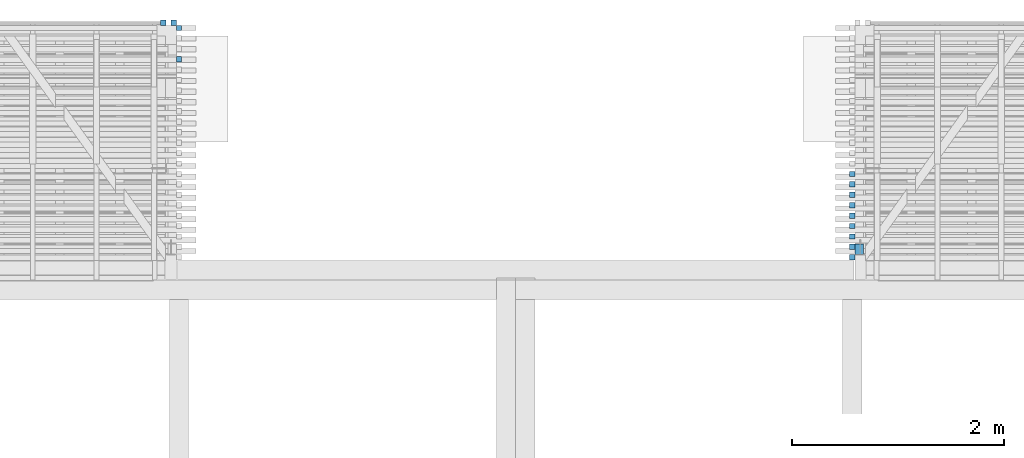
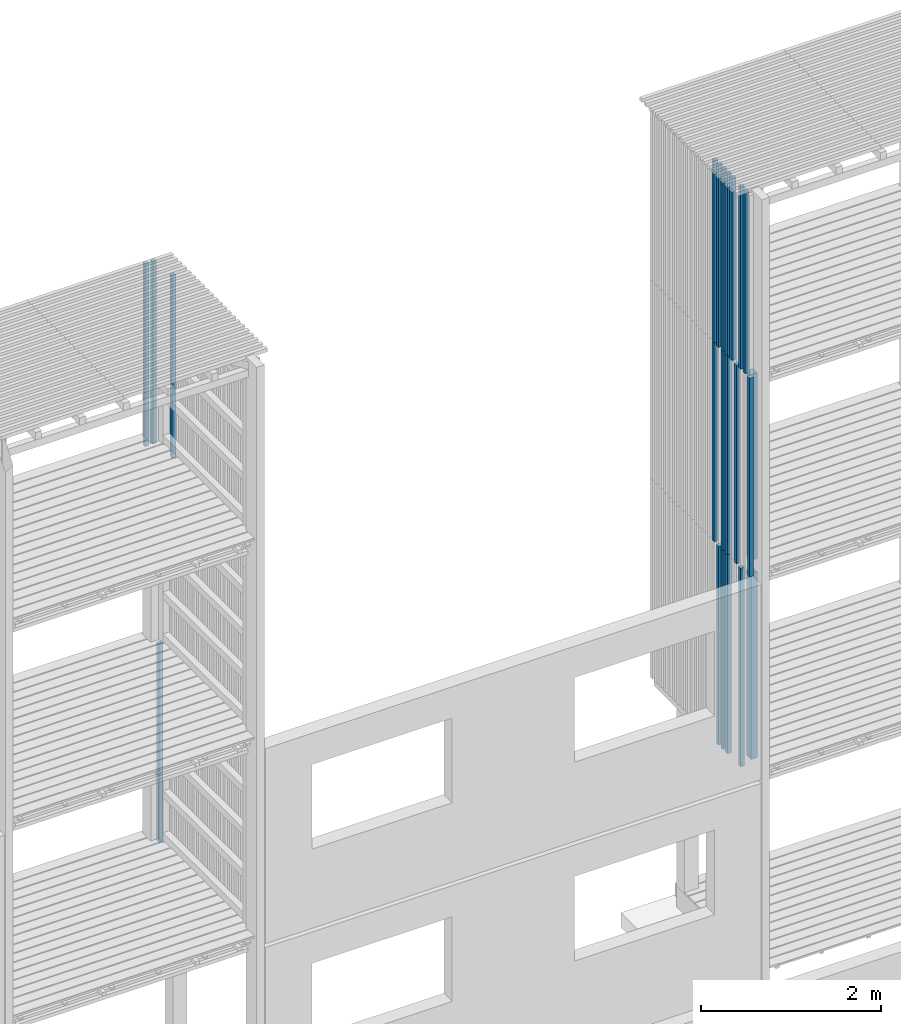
# One storey, part 58 of 182: 22 beams.
"""IFC2X3 building model written with IfcOpenShell, lengths in metres."""

from ifc_helpers import new_model, si_unit, frame, origin, place, context, project, spatial, faceted_brep, element, save


model = new_model("IFC2X3")

# Units and contexts
model_context = context("Model", 3, precision=1e-06, world=origin())
ifc_project = project(units=[si_unit("LENGTHUNIT", "METRE"), si_unit("PLANEANGLEUNIT", "RADIAN")], contexts=[model_context])

# Site, building, storey
site = spatial("IfcSite", under=ifc_project, CompositionType="ELEMENT")
building = spatial("IfcBuilding", under=site, CompositionType="ELEMENT")
storey = spatial("IfcBuildingStorey", under=building, Name="vs", CompositionType="ELEMENT", Elevation=-0.85)

# Beams
placement = place(None, origin())
beam_1_placement = place(placement, frame((23.019999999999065, 11.470532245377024, 7.974999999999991), z_axis=(1.0, 0.0, 0.0), x_axis=(0.0, 0.0, 1.0)))
element("IfcBeam", 1, at=beam_1_placement, inside=storey, Name="Bardage", context=model_context, shape_type="Brep", body=[
    faceted_brep([(0.0, -0.025000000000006, 0.025000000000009), (0.0, 0.024999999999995, 0.025000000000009), (0.0, 0.024999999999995, -0.025000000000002), (0.0, -0.025000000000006, -0.025000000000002), (2.479999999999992, 0.024999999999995, -0.025000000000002), (2.479999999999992, 0.024999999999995, 0.025000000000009), (2.479999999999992, -0.025000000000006, 0.025000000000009), (2.479999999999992, -0.025000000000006, -0.025000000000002), (0.0, 0.024999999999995, 0.025000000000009), (0.0, -0.025000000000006, 0.025000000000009), (2.479999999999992, -0.025000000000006, 0.025000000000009), (2.479999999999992, 0.024999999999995, 0.025000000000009), (0.0, 0.024999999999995, -0.025000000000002), (0.0, 0.024999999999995, 0.025000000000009), (2.479999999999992, 0.024999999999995, 0.025000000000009), (2.479999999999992, 0.024999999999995, -0.025000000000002), (0.0, -0.025000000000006, -0.025000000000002), (0.0, 0.024999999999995, -0.025000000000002), (2.479999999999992, 0.024999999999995, -0.025000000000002), (2.479999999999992, -0.025000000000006, -0.025000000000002), (2.479999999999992, -0.025000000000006, 0.025000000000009), (0.0, -0.025000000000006, 0.025000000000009), (0.0, -0.025000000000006, -0.025000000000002), (2.479999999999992, -0.025000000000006, -0.025000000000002)], [[[0, 1, 2, 3]], [[4, 5, 6, 7]], [[8, 9, 10, 11]], [[12, 13, 14, 15]], [[16, 17, 18, 19]], [[20, 21, 22, 23]]]),
])
beam_2_placement = place(placement, frame((23.019999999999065, 10.6850776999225, 5.274999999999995), z_axis=(1.0, 0.0, 0.0), x_axis=(0.0, 0.0, 1.0)))
element("IfcBeam", 2, at=beam_2_placement, inside=storey, Name="Bardage", context=model_context, shape_type="Brep", body=[
    faceted_brep([(2.699999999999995, 0.025000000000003, 0.025000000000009), (2.699999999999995, -0.024999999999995, 0.025000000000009), (2.699999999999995, -0.024999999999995, -0.025000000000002), (2.699999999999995, 0.025000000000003, -0.025000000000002), (1e-15, 0.025000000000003, 0.025000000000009), (2.699999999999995, 0.025000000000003, 0.025000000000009), (2.699999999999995, 0.025000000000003, -0.025000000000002), (1e-15, 0.025000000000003, -0.025000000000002), (1e-15, -0.024999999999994, 0.025000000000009), (1e-15, 0.025000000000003, 0.025000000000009), (1e-15, 0.025000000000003, -0.025000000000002), (1e-15, -0.024999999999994, -0.025000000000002), (1e-15, 0.025000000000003, 0.025000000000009), (1e-15, -0.024999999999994, 0.025000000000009), (2.699999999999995, -0.024999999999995, 0.025000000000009), (2.699999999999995, 0.025000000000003, 0.025000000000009), (1e-15, -0.024999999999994, 0.025000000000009), (1e-15, -0.024999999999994, -0.025000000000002), (2.699999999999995, -0.024999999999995, -0.025000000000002), (2.699999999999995, -0.024999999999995, 0.025000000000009), (1e-15, -0.024999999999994, -0.025000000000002), (1e-15, 0.025000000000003, -0.025000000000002), (2.699999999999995, 0.025000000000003, -0.025000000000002), (2.699999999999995, -0.024999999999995, -0.025000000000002)], [[[0, 1, 2, 3]], [[4, 5, 6, 7]], [[8, 9, 10, 11]], [[12, 13, 14, 15]], [[16, 17, 18, 19]], [[20, 21, 22, 23]]]),
])
beam_3_placement = place(placement, frame((23.019999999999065, 11.274168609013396, 7.974999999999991), z_axis=(1.0, 0.0, 0.0), x_axis=(0.0, 0.0, 1.0)))
element("IfcBeam", 3, at=beam_3_placement, inside=storey, Name="Bardage", context=model_context, shape_type="Brep", body=[
    faceted_brep([(0.0, -0.025000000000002, 0.025000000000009), (0.0, 0.025000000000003, 0.025000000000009), (0.0, 0.025000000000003, -0.025000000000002), (0.0, -0.025000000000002, -0.025000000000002), (2.479999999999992, 0.025000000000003, -0.025000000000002), (2.479999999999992, 0.025000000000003, 0.025000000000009), (2.479999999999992, -0.025000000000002, 0.025000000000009), (2.479999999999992, -0.025000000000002, -0.025000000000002), (0.0, 0.025000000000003, 0.025000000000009), (0.0, -0.025000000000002, 0.025000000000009), (2.479999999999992, -0.025000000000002, 0.025000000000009), (2.479999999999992, 0.025000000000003, 0.025000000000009), (0.0, 0.025000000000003, -0.025000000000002), (0.0, 0.025000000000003, 0.025000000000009), (2.479999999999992, 0.025000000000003, 0.025000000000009), (2.479999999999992, 0.025000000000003, -0.025000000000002), (0.0, -0.025000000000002, -0.025000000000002), (0.0, 0.025000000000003, -0.025000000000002), (2.479999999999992, 0.025000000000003, -0.025000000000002), (2.479999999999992, -0.025000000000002, -0.025000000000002), (2.479999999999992, -0.025000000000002, 0.025000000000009), (0.0, -0.025000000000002, 0.025000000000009), (0.0, -0.025000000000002, -0.025000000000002), (2.479999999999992, -0.025000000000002, -0.025000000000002)], [[[0, 1, 2, 3]], [[4, 5, 6, 7]], [[8, 9, 10, 11]], [[12, 13, 14, 15]], [[16, 17, 18, 19]], [[20, 21, 22, 23]]]),
])
beam_4_placement = place(placement, frame((23.019999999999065, 11.274168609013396, 5.274999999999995), z_axis=(1.0, 0.0, 0.0), x_axis=(0.0, 0.0, 1.0)))
element("IfcBeam", 4, at=beam_4_placement, inside=storey, Name="Bardage", context=model_context, shape_type="Brep", body=[
    faceted_brep([(2.699999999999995, 0.025000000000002, 0.025000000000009), (2.699999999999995, -0.025000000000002, 0.025000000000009), (2.699999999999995, -0.025000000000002, -0.025000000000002), (2.699999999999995, 0.025000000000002, -0.025000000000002), (1e-15, 0.025000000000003, 0.025000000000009), (2.699999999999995, 0.025000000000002, 0.025000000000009), (2.699999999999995, 0.025000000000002, -0.025000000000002), (1e-15, 0.025000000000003, -0.025000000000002), (1e-15, -0.025000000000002, 0.025000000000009), (1e-15, 0.025000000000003, 0.025000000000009), (1e-15, 0.025000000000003, -0.025000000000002), (1e-15, -0.025000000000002, -0.025000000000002), (1e-15, 0.025000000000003, 0.025000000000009), (1e-15, -0.025000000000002, 0.025000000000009), (2.699999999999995, -0.025000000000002, 0.025000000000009), (2.699999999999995, 0.025000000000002, 0.025000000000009), (1e-15, -0.025000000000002, 0.025000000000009), (1e-15, -0.025000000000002, -0.025000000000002), (2.699999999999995, -0.025000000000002, -0.025000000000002), (2.699999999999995, -0.025000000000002, 0.025000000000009), (1e-15, -0.025000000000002, -0.025000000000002), (1e-15, 0.025000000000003, -0.025000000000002), (2.699999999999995, 0.025000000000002, -0.025000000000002), (2.699999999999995, -0.025000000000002, -0.025000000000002)], [[[0, 1, 2, 3]], [[4, 5, 6, 7]], [[8, 9, 10, 11]], [[12, 13, 14, 15]], [[16, 17, 18, 19]], [[20, 21, 22, 23]]]),
])
beam_5_placement = place(placement, frame((23.019999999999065, 11.175986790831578, 5.274999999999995), z_axis=(1.0, 0.0, 0.0), x_axis=(0.0, 0.0, 1.0)))
element("IfcBeam", 5, at=beam_5_placement, inside=storey, Name="Bardage", context=model_context, shape_type="Brep", body=[
    faceted_brep([(2.699999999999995, 0.024999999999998, 0.025000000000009), (2.699999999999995, -0.024999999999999, 0.025000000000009), (2.699999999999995, -0.024999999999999, -0.025000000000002), (2.699999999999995, 0.024999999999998, -0.025000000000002), (1e-15, 0.024999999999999, 0.025000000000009), (2.699999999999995, 0.024999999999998, 0.025000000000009), (2.699999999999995, 0.024999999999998, -0.025000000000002), (1e-15, 0.024999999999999, -0.025000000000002), (1e-15, -0.024999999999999, 0.025000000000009), (1e-15, 0.024999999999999, 0.025000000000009), (1e-15, 0.024999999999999, -0.025000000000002), (1e-15, -0.024999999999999, -0.025000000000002), (1e-15, 0.024999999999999, 0.025000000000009), (1e-15, -0.024999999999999, 0.025000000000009), (2.699999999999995, -0.024999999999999, 0.025000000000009), (2.699999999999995, 0.024999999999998, 0.025000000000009), (1e-15, -0.024999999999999, 0.025000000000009), (1e-15, -0.024999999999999, -0.025000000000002), (2.699999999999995, -0.024999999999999, -0.025000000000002), (2.699999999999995, -0.024999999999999, 0.025000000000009), (1e-15, -0.024999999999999, -0.025000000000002), (1e-15, 0.024999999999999, -0.025000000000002), (2.699999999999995, 0.024999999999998, -0.025000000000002), (2.699999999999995, -0.024999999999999, -0.025000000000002)], [[[0, 1, 2, 3]], [[4, 5, 6, 7]], [[8, 9, 10, 11]], [[12, 13, 14, 15]], [[16, 17, 18, 19]], [[20, 21, 22, 23]]]),
])
beam_6_placement = place(placement, frame((23.019999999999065, 11.470532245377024, 5.274999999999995), z_axis=(1.0, 0.0, 0.0), x_axis=(0.0, 0.0, 1.0)))
element("IfcBeam", 6, at=beam_6_placement, inside=storey, Name="Bardage", context=model_context, shape_type="Brep", body=[
    faceted_brep([(2.699999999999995, 0.024999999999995, 0.025000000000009), (2.699999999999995, -0.025000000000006, 0.025000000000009), (2.699999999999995, -0.025000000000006, -0.025000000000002), (2.699999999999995, 0.024999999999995, -0.025000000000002), (1e-15, 0.024999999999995, 0.025000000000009), (2.699999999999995, 0.024999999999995, 0.025000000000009), (2.699999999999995, 0.024999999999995, -0.025000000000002), (1e-15, 0.024999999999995, -0.025000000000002), (1e-15, -0.025000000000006, 0.025000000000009), (1e-15, 0.024999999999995, 0.025000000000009), (1e-15, 0.024999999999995, -0.025000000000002), (1e-15, -0.025000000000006, -0.025000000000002), (1e-15, 0.024999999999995, 0.025000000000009), (1e-15, -0.025000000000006, 0.025000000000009), (2.699999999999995, -0.025000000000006, 0.025000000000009), (2.699999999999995, 0.024999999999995, 0.025000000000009), (1e-15, -0.025000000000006, 0.025000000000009), (1e-15, -0.025000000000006, -0.025000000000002), (2.699999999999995, -0.025000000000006, -0.025000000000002), (2.699999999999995, -0.025000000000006, 0.025000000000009), (1e-15, -0.025000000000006, -0.025000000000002), (1e-15, 0.024999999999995, -0.025000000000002), (2.699999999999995, 0.024999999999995, -0.025000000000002), (2.699999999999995, -0.025000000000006, -0.025000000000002)], [[[0, 1, 2, 3]], [[4, 5, 6, 7]], [[8, 9, 10, 11]], [[12, 13, 14, 15]], [[16, 17, 18, 19]], [[20, 21, 22, 23]]]),
])
beam_7_placement = place(placement, frame((23.019999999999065, 11.274168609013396, 2.575000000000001), z_axis=(1.0, 0.0, 0.0), x_axis=(0.0, 1e-15, 1.0)))
element("IfcBeam", 7, at=beam_7_placement, inside=storey, Name="Bardage", context=model_context, shape_type="Brep", body=[
    faceted_brep([(2.699961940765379, -0.024999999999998, 0.025000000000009), (2.699961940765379, -0.024999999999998, -0.025000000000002), (2.699961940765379, 0.025000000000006, -0.025000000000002), (2.699961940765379, 0.025000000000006, 0.025000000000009), (0.0, -0.025000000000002, 0.025000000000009), (2.699961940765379, -0.024999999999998, 0.025000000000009), (2.699961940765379, 0.025000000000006, 0.025000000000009), (0.0, 0.025000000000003, 0.025000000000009), (0.0, -0.025000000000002, 0.025000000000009), (0.0, 0.025000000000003, 0.025000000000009), (0.0, 0.025000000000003, -0.025000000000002), (0.0, -0.025000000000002, -0.025000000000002), (0.0, -0.025000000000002, 0.025000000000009), (0.0, -0.025000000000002, -0.025000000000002), (2.699961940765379, -0.024999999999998, -0.025000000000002), (2.699961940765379, -0.024999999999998, 0.025000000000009), (0.0, -0.025000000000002, -0.025000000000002), (0.0, 0.025000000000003, -0.025000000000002), (2.699961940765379, 0.025000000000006, -0.025000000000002), (2.699961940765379, -0.024999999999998, -0.025000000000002), (0.0, 0.025000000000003, -0.025000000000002), (0.0, 0.025000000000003, 0.025000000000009), (2.699961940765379, 0.025000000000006, 0.025000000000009), (2.699961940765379, 0.025000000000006, -0.025000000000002)], [[[0, 1, 2, 3]], [[4, 5, 6, 7]], [[8, 9, 10, 11]], [[12, 13, 14, 15]], [[16, 17, 18, 19]], [[20, 21, 22, 23]]]),
])
beam_8_placement = place(placement, frame((23.019999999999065, 11.175986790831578, 7.974999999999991), z_axis=(1.0, 0.0, 0.0), x_axis=(0.0, 0.0, 1.0)))
element("IfcBeam", 8, at=beam_8_placement, inside=storey, Name="Bardage", context=model_context, shape_type="Brep", body=[
    faceted_brep([(0.0, -0.024999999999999, 0.025000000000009), (0.0, 0.024999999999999, 0.025000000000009), (0.0, 0.024999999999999, -0.025000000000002), (0.0, -0.024999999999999, -0.025000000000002), (2.479999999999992, 0.024999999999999, -0.025000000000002), (2.479999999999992, 0.024999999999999, 0.025000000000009), (2.479999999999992, -0.024999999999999, 0.025000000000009), (2.479999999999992, -0.024999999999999, -0.025000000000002), (0.0, 0.024999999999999, 0.025000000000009), (0.0, -0.024999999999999, 0.025000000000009), (2.479999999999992, -0.024999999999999, 0.025000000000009), (2.479999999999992, 0.024999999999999, 0.025000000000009), (0.0, 0.024999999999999, -0.025000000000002), (0.0, 0.024999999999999, 0.025000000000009), (2.479999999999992, 0.024999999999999, 0.025000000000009), (2.479999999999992, 0.024999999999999, -0.025000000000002), (0.0, -0.024999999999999, -0.025000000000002), (0.0, 0.024999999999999, -0.025000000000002), (2.479999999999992, 0.024999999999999, -0.025000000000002), (2.479999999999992, -0.024999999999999, -0.025000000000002), (2.479999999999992, -0.024999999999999, 0.025000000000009), (0.0, -0.024999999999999, 0.025000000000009), (0.0, -0.024999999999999, -0.025000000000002), (2.479999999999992, -0.024999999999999, -0.025000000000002)], [[[0, 1, 2, 3]], [[4, 5, 6, 7]], [[8, 9, 10, 11]], [[12, 13, 14, 15]], [[16, 17, 18, 19]], [[20, 21, 22, 23]]]),
])
beam_9_placement = place(placement, frame((23.019999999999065, 10.881441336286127, 2.575000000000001), z_axis=(1.0, 0.0, 0.0), x_axis=(0.0, 0.0, 1.0)))
element("IfcBeam", 9, at=beam_9_placement, inside=storey, Name="Bardage", context=model_context, shape_type="Brep", body=[
    faceted_brep([(2.699961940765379, -0.024999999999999, 0.025000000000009), (2.699961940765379, -0.024999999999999, -0.025000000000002), (2.699961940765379, 0.024999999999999, -0.025000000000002), (2.699961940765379, 0.024999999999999, 0.025000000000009), (0.0, -0.024999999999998, 0.025000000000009), (2.699961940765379, -0.024999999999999, 0.025000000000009), (2.699961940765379, 0.024999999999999, 0.025000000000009), (0.0, 0.024999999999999, 0.025000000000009), (0.0, -0.024999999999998, 0.025000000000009), (0.0, 0.024999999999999, 0.025000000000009), (0.0, 0.024999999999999, -0.025000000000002), (0.0, -0.024999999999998, -0.025000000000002), (0.0, -0.024999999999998, 0.025000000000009), (0.0, -0.024999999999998, -0.025000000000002), (2.699961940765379, -0.024999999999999, -0.025000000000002), (2.699961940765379, -0.024999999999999, 0.025000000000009), (0.0, -0.024999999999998, -0.025000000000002), (0.0, 0.024999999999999, -0.025000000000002), (2.699961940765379, 0.024999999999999, -0.025000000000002), (2.699961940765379, -0.024999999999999, -0.025000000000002), (0.0, 0.024999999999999, -0.025000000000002), (0.0, 0.024999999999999, 0.025000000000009), (2.699961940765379, 0.024999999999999, 0.025000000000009), (2.699961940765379, 0.024999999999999, -0.025000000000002)], [[[0, 1, 2, 3]], [[4, 5, 6, 7]], [[8, 9, 10, 11]], [[12, 13, 14, 15]], [[16, 17, 18, 19]], [[20, 21, 22, 23]]]),
])
for number, where, z_axis, x_axis in (
    (10, (23.019999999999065, 10.783259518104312, 7.974999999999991), (1.0, 0.0, 0.0), (0.0, 0.0, 1.0)),
    (11, (23.019999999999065, 11.077804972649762, 7.974999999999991), (1.0, 0.0, 0.0), (0.0, 0.0, 1.0)),
):
    element("IfcBeam", number, at=place(placement, frame(where, z_axis=z_axis, x_axis=x_axis)), inside=storey, Name="Bardage", context=model_context, shape_type="Brep", body=[
        faceted_brep([(0.0, -0.024999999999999, 0.025000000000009), (0.0, 0.025000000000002, 0.025000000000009), (0.0, 0.025000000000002, -0.025000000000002), (0.0, -0.024999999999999, -0.025000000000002), (2.479999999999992, 0.025000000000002, -0.025000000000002), (2.479999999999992, 0.025000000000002, 0.025000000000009), (2.479999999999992, -0.024999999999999, 0.025000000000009), (2.479999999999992, -0.024999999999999, -0.025000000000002), (0.0, 0.025000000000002, 0.025000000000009), (0.0, -0.024999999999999, 0.025000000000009), (2.479999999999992, -0.024999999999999, 0.025000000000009), (2.479999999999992, 0.025000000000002, 0.025000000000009), (0.0, 0.025000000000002, -0.025000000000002), (0.0, 0.025000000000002, 0.025000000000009), (2.479999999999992, 0.025000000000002, 0.025000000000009), (2.479999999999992, 0.025000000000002, -0.025000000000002), (0.0, -0.024999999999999, -0.025000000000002), (0.0, 0.025000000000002, -0.025000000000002), (2.479999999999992, 0.025000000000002, -0.025000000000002), (2.479999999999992, -0.024999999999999, -0.025000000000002), (2.479999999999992, -0.024999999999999, 0.025000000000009), (0.0, -0.024999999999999, 0.025000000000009), (0.0, -0.024999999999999, -0.025000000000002), (2.479999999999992, -0.024999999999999, -0.025000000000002)], [[[0, 1, 2, 3]], [[4, 5, 6, 7]], [[8, 9, 10, 11]], [[12, 13, 14, 15]], [[16, 17, 18, 19]], [[20, 21, 22, 23]]]),
    ])
for number, where, z_axis, x_axis in (
    (12, (23.019999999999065, 11.372350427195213, 7.974999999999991), (1.0, 0.0, 0.0), (0.0, 0.0, 1.0)),
    (13, (23.019999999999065, 10.881441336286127, 7.974999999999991), (1.0, 0.0, 0.0), (0.0, 0.0, 1.0)),
):
    element("IfcBeam", number, at=place(placement, frame(where, z_axis=z_axis, x_axis=x_axis)), inside=storey, Name="Bardage", context=model_context, shape_type="Brep", body=[
        faceted_brep([(0.0, -0.024999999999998, 0.025000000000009), (0.0, 0.024999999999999, 0.025000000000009), (0.0, 0.024999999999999, -0.025000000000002), (0.0, -0.024999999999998, -0.025000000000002), (2.479999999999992, 0.024999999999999, -0.025000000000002), (2.479999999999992, 0.024999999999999, 0.025000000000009), (2.479999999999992, -0.024999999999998, 0.025000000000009), (2.479999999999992, -0.024999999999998, -0.025000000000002), (0.0, 0.024999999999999, 0.025000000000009), (0.0, -0.024999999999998, 0.025000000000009), (2.479999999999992, -0.024999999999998, 0.025000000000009), (2.479999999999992, 0.024999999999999, 0.025000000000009), (0.0, 0.024999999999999, -0.025000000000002), (0.0, 0.024999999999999, 0.025000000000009), (2.479999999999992, 0.024999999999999, 0.025000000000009), (2.479999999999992, 0.024999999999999, -0.025000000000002), (0.0, -0.024999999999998, -0.025000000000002), (0.0, 0.024999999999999, -0.025000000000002), (2.479999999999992, 0.024999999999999, -0.025000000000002), (2.479999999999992, -0.024999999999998, -0.025000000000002), (2.479999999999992, -0.024999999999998, 0.025000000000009), (0.0, -0.024999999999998, 0.025000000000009), (0.0, -0.024999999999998, -0.025000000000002), (2.479999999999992, -0.024999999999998, -0.025000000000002)], [[[0, 1, 2, 3]], [[4, 5, 6, 7]], [[8, 9, 10, 11]], [[12, 13, 14, 15]], [[16, 17, 18, 19]], [[20, 21, 22, 23]]]),
    ])
beam_10_placement = place(placement, frame((23.019999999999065, 10.979623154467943, 5.274999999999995), z_axis=(1.0, 0.0, 0.0), x_axis=(0.0, 1e-15, 1.0)))
element("IfcBeam", 14, at=beam_10_placement, inside=storey, Name="Bardage", context=model_context, shape_type="Brep", body=[
    faceted_brep([(2.699999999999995, 0.025000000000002, 0.025000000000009), (2.699999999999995, -0.024999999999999, 0.025000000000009), (2.699999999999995, -0.024999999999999, -0.025000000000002), (2.699999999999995, 0.025000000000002, -0.025000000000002), (1e-15, 0.024999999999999, 0.025000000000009), (2.699999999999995, 0.025000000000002, 0.025000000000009), (2.699999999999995, 0.025000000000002, -0.025000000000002), (1e-15, 0.024999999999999, -0.025000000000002), (1e-15, -0.025000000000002, 0.025000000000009), (1e-15, 0.024999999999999, 0.025000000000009), (1e-15, 0.024999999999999, -0.025000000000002), (1e-15, -0.025000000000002, -0.025000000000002), (1e-15, 0.024999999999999, 0.025000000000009), (1e-15, -0.025000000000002, 0.025000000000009), (2.699999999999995, -0.024999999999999, 0.025000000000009), (2.699999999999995, 0.025000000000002, 0.025000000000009), (1e-15, -0.025000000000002, 0.025000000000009), (1e-15, -0.025000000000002, -0.025000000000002), (2.699999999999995, -0.024999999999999, -0.025000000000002), (2.699999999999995, -0.024999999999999, 0.025000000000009), (1e-15, -0.025000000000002, -0.025000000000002), (1e-15, 0.024999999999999, -0.025000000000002), (2.699999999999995, 0.025000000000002, -0.025000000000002), (2.699999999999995, -0.024999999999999, -0.025000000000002)], [[[0, 1, 2, 3]], [[4, 5, 6, 7]], [[8, 9, 10, 11]], [[12, 13, 14, 15]], [[16, 17, 18, 19]], [[20, 21, 22, 23]]]),
])
beam_11_placement = place(placement, frame((23.08499999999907, 10.760077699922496, 5.446999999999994), z_axis=(0.0, 1.0, 0.0), x_axis=(0.0, 0.0, 1.0)))
element("IfcBeam", 15, at=beam_11_placement, inside=storey, Name="Support bardage", context=model_context, shape_type="Brep", body=[
    faceted_brep([(2.527999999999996, -0.039999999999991, -0.050000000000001), (2.527999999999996, 0.040000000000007, -0.050000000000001), (2.527999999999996, 0.040000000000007, 0.05), (2.527999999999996, -0.039999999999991, 0.05), (-1e-15, -0.039999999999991, -0.050000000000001), (2.527999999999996, -0.039999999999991, -0.050000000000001), (2.527999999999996, -0.039999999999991, 0.05), (-1e-15, -0.039999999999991, 0.05), (-1e-15, -0.039999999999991, -0.050000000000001), (-1e-15, -0.039999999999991, 0.05), (-1e-15, 0.040000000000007, 0.05), (-1e-15, 0.040000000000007, -0.050000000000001), (-1e-15, -0.039999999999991, -0.050000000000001), (-1e-15, 0.040000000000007, -0.050000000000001), (2.527999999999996, 0.040000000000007, -0.050000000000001), (2.527999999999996, -0.039999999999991, -0.050000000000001), (-1e-15, 0.040000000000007, -0.050000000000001), (-1e-15, 0.040000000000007, 0.05), (2.527999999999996, 0.040000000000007, 0.05), (2.527999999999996, 0.040000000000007, -0.050000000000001), (-1e-15, 0.040000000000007, 0.05), (-1e-15, -0.039999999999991, 0.05), (2.527999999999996, -0.039999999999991, 0.05), (2.527999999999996, 0.040000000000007, 0.05)], [[[0, 1, 2, 3]], [[4, 5, 6, 7]], [[8, 9, 10, 11]], [[12, 13, 14, 15]], [[16, 17, 18, 19]], [[20, 21, 22, 23]]]),
])
beam_12_placement = place(placement, frame((23.019999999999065, 11.372350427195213, 2.575000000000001), z_axis=(1.0, 0.0, 0.0), x_axis=(0.0, 0.0, 1.0)))
element("IfcBeam", 16, at=beam_12_placement, inside=storey, Name="Bardage", context=model_context, shape_type="Brep", body=[
    faceted_brep([(2.699961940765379, -0.024999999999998, 0.025000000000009), (2.699961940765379, -0.024999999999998, -0.025000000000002), (2.699961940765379, 0.024999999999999, -0.025000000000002), (2.699961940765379, 0.024999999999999, 0.025000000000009), (0.0, -0.024999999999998, 0.025000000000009), (2.699961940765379, -0.024999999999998, 0.025000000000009), (2.699961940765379, 0.024999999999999, 0.025000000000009), (0.0, 0.024999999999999, 0.025000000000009), (0.0, -0.024999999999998, 0.025000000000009), (0.0, 0.024999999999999, 0.025000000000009), (0.0, 0.024999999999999, -0.025000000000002), (0.0, -0.024999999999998, -0.025000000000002), (0.0, -0.024999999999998, 0.025000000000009), (0.0, -0.024999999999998, -0.025000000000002), (2.699961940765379, -0.024999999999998, -0.025000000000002), (2.699961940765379, -0.024999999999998, 0.025000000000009), (0.0, -0.024999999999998, -0.025000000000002), (0.0, 0.024999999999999, -0.025000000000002), (2.699961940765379, 0.024999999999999, -0.025000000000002), (2.699961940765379, -0.024999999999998, -0.025000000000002), (0.0, 0.024999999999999, -0.025000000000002), (0.0, 0.024999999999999, 0.025000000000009), (2.699961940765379, 0.024999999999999, 0.025000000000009), (2.699961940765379, 0.024999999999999, -0.025000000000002)], [[[0, 1, 2, 3]], [[4, 5, 6, 7]], [[8, 9, 10, 11]], [[12, 13, 14, 15]], [[16, 17, 18, 19]], [[20, 21, 22, 23]]]),
])
beam_13_placement = place(placement, frame((23.019999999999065, 11.175986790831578, 2.575000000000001), z_axis=(1.0, 0.0, 0.0), x_axis=(0.0, 0.0, 1.0)))
element("IfcBeam", 17, at=beam_13_placement, inside=storey, Name="Bardage", context=model_context, shape_type="Brep", body=[
    faceted_brep([(2.699961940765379, -0.025000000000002, 0.025000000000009), (2.699961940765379, -0.025000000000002, -0.025000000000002), (2.699961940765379, 0.024999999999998, -0.025000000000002), (2.699961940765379, 0.024999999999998, 0.025000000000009), (0.0, -0.024999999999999, 0.025000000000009), (2.699961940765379, -0.025000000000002, 0.025000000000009), (2.699961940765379, 0.024999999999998, 0.025000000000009), (0.0, 0.024999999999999, 0.025000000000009), (0.0, -0.024999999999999, 0.025000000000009), (0.0, 0.024999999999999, 0.025000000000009), (0.0, 0.024999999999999, -0.025000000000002), (0.0, -0.024999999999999, -0.025000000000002), (0.0, -0.024999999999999, 0.025000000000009), (0.0, -0.024999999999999, -0.025000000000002), (2.699961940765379, -0.025000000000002, -0.025000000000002), (2.699961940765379, -0.025000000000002, 0.025000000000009), (0.0, -0.024999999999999, -0.025000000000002), (0.0, 0.024999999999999, -0.025000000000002), (2.699961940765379, 0.024999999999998, -0.025000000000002), (2.699961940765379, -0.025000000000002, -0.025000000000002), (0.0, 0.024999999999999, -0.025000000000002), (0.0, 0.024999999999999, 0.025000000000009), (2.699961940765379, 0.024999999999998, 0.025000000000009), (2.699961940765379, 0.024999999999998, -0.025000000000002)], [[[0, 1, 2, 3]], [[4, 5, 6, 7]], [[8, 9, 10, 11]], [[12, 13, 14, 15]], [[16, 17, 18, 19]], [[20, 21, 22, 23]]]),
])
beam_14_placement = place(placement, frame((23.08499999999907, 10.760077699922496, 2.746999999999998), z_axis=(0.0, 1.0, 0.0), x_axis=(0.0, 0.0, 1.0)))
element("IfcBeam", 18, at=beam_14_placement, inside=storey, Name="Support bardage", context=model_context, shape_type="Brep", body=[
    faceted_brep([(2.527961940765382, 0.040000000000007, -0.050000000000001), (2.527961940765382, 0.040000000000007, 0.05), (2.527961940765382, -0.039999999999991, 0.05), (2.527961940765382, -0.039999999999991, -0.050000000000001), (0.0, 0.040000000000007, -0.050000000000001), (2.527961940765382, 0.040000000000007, -0.050000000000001), (2.527961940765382, -0.039999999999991, -0.050000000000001), (0.0, -0.039999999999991, -0.050000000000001), (0.0, 0.040000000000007, -0.050000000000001), (0.0, -0.039999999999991, -0.050000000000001), (0.0, -0.039999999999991, 0.05), (0.0, 0.040000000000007, 0.05), (0.0, 0.040000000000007, -0.050000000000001), (0.0, 0.040000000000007, 0.05), (2.527961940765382, 0.040000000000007, 0.05), (2.527961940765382, 0.040000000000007, -0.050000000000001), (0.0, 0.040000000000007, 0.05), (0.0, -0.039999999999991, 0.05), (2.527961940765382, -0.039999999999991, 0.05), (2.527961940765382, 0.040000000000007, 0.05), (0.0, -0.039999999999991, 0.05), (0.0, -0.039999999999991, -0.050000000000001), (2.527961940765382, -0.039999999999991, -0.050000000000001), (2.527961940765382, -0.039999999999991, 0.05)], [[[0, 1, 2, 3]], [[4, 5, 6, 7]], [[8, 9, 10, 11]], [[12, 13, 14, 15]], [[16, 17, 18, 19]], [[20, 21, 22, 23]]]),
])
beam_15_placement = place(placement, frame((16.531015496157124, 12.895077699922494, 7.974999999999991), z_axis=(0.0, -1.0, 0.0), x_axis=(0.0, 0.0, 1.0)))
element("IfcBeam", 19, at=beam_15_placement, inside=storey, Name="Bardage", context=model_context, shape_type="Brep", body=[
    faceted_brep([(0.0, -0.024999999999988, 0.025000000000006), (0.0, 0.025000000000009, 0.024999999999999), (0.0, 0.024999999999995, -0.025000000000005), (0.0, -0.025000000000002, -0.024999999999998), (2.479999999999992, 0.024999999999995, -0.025000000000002), (2.479999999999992, 0.025000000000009, 0.024999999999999), (2.479999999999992, -0.024999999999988, 0.025000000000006), (2.479999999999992, -0.025000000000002, -0.024999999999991), (0.0, 0.025000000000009, 0.024999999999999), (0.0, -0.024999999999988, 0.025000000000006), (2.479999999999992, -0.024999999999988, 0.025000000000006), (2.479999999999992, 0.025000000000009, 0.024999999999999), (0.0, 0.024999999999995, -0.025000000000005), (0.0, 0.025000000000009, 0.024999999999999), (2.479999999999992, 0.025000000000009, 0.024999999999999), (2.479999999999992, 0.024999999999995, -0.025000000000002), (0.0, -0.025000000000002, -0.024999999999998), (0.0, 0.024999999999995, -0.025000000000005), (2.479999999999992, 0.024999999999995, -0.025000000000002), (2.479999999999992, -0.025000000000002, -0.024999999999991), (2.479999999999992, -0.024999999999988, 0.025000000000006), (0.0, -0.024999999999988, 0.025000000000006), (0.0, -0.025000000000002, -0.024999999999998), (2.479999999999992, -0.025000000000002, -0.024999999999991)], [[[0, 1, 2, 3]], [[4, 5, 6, 7]], [[8, 9, 10, 11]], [[12, 13, 14, 15]], [[16, 17, 18, 19]], [[20, 21, 22, 23]]]),
])
beam_16_placement = place(placement, frame((16.62919731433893, 12.895077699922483, 7.974999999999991), z_axis=(0.0, -1.0, 0.0), x_axis=(0.0, 0.0, 1.0)))
element("IfcBeam", 20, at=beam_16_placement, inside=storey, Name="Bardage", context=model_context, shape_type="Brep", body=[
    faceted_brep([(0.0, -0.025000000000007, 0.025000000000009), (0.0, 0.025000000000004, 0.025000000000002), (0.0, 0.02499999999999, -0.025000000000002), (0.0, -0.025000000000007, -0.024999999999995), (2.479999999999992, 0.02499999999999, -0.024999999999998), (2.479999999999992, 0.025000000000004, 0.024999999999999), (2.479999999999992, -0.025000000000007, 0.025000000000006), (2.479999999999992, -0.025000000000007, -0.024999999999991), (0.0, 0.025000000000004, 0.025000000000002), (0.0, -0.025000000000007, 0.025000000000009), (2.479999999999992, -0.025000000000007, 0.025000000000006), (2.479999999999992, 0.025000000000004, 0.024999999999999), (0.0, 0.02499999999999, -0.025000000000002), (0.0, 0.025000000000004, 0.025000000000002), (2.479999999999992, 0.025000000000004, 0.024999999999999), (2.479999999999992, 0.02499999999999, -0.024999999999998), (0.0, -0.025000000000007, -0.024999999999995), (0.0, 0.02499999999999, -0.025000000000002), (2.479999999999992, 0.02499999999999, -0.024999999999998), (2.479999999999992, -0.025000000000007, -0.024999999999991), (2.479999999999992, -0.025000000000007, 0.025000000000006), (0.0, -0.025000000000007, 0.025000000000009), (0.0, -0.025000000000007, -0.024999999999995), (2.479999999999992, -0.025000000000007, -0.024999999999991)], [[[0, 1, 2, 3]], [[4, 5, 6, 7]], [[8, 9, 10, 11]], [[12, 13, 14, 15]], [[16, 17, 18, 19]], [[20, 21, 22, 23]]]),
])
beam_17_placement = place(placement, frame((16.67919731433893, 12.550532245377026, 7.974999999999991), z_axis=(-1.0, 0.0, 0.0), x_axis=(0.0, 0.0, 1.0)))
element("IfcBeam", 21, at=beam_17_placement, inside=storey, Name="Bardage", context=model_context, shape_type="Brep", body=[
    faceted_brep([(2.479999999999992, -0.025000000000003, 0.024999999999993), (2.479999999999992, -0.025000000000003, -0.025000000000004), (2.479999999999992, 0.024999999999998, -0.025000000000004), (2.479999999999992, 0.024999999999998, 0.024999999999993), (0.0, 0.024999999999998, 0.024999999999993), (0.0, -0.025000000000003, 0.024999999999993), (2.479999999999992, -0.025000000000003, 0.024999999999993), (2.479999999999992, 0.024999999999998, 0.024999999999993), (0.0, -0.025000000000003, 0.024999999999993), (0.0, 0.024999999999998, 0.024999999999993), (0.0, 0.024999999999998, -0.025000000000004), (0.0, -0.025000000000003, -0.025000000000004), (0.0, 0.024999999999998, -0.025000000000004), (0.0, 0.024999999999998, 0.024999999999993), (2.479999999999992, 0.024999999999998, 0.024999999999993), (2.479999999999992, 0.024999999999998, -0.025000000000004), (0.0, -0.025000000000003, -0.025000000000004), (0.0, 0.024999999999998, -0.025000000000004), (2.479999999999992, 0.024999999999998, -0.025000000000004), (2.479999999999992, -0.025000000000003, -0.025000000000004), (2.479999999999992, -0.025000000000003, 0.024999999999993), (0.0, -0.025000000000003, 0.024999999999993), (0.0, -0.025000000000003, -0.025000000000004), (2.479999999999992, -0.025000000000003, -0.025000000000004)], [[[0, 1, 2, 3]], [[4, 5, 6, 7]], [[8, 9, 10, 11]], [[12, 13, 14, 15]], [[16, 17, 18, 19]], [[20, 21, 22, 23]]]),
])
beam_18_placement = place(placement, frame((16.67919731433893, 12.845077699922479, 2.575000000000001), z_axis=(-1.0, 0.0, 0.0), x_axis=(0.0, 0.0, 1.0)))
element("IfcBeam", 22, at=beam_18_placement, inside=storey, Name="Bardage", context=model_context, shape_type="Brep", body=[
    faceted_brep([(0.0, -0.025000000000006, 0.024999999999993), (0.0, 0.024999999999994, 0.024999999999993), (0.0, 0.024999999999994, -0.025000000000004), (0.0, -0.025000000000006, -0.025000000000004), (2.699961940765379, 0.024999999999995, -0.025000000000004), (2.699961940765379, 0.024999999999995, 0.024999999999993), (2.699961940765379, -0.025000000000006, 0.024999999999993), (2.699961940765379, -0.025000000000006, -0.025000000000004), (0.0, -0.025000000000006, -0.025000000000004), (0.0, 0.024999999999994, -0.025000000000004), (2.699961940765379, 0.024999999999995, -0.025000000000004), (2.699961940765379, -0.025000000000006, -0.025000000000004), (2.699961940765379, 0.024999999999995, -0.025000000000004), (0.0, 0.024999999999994, -0.025000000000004), (0.0, 0.024999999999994, 0.024999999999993), (2.699961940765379, 0.024999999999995, 0.024999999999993), (2.699961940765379, 0.024999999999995, 0.024999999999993), (0.0, 0.024999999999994, 0.024999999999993), (0.0, -0.025000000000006, 0.024999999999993), (2.699961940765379, -0.025000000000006, 0.024999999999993), (2.699961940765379, -0.025000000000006, 0.024999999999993), (0.0, -0.025000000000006, 0.024999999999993), (0.0, -0.025000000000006, -0.025000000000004), (2.699961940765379, -0.025000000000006, -0.025000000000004)], [[[0, 1, 2, 3]], [[4, 5, 6, 7]], [[8, 9, 10, 11]], [[12, 13, 14, 15]], [[16, 17, 18, 19]], [[20, 21, 22, 23]]]),
])

save(model, "model.ifc")
